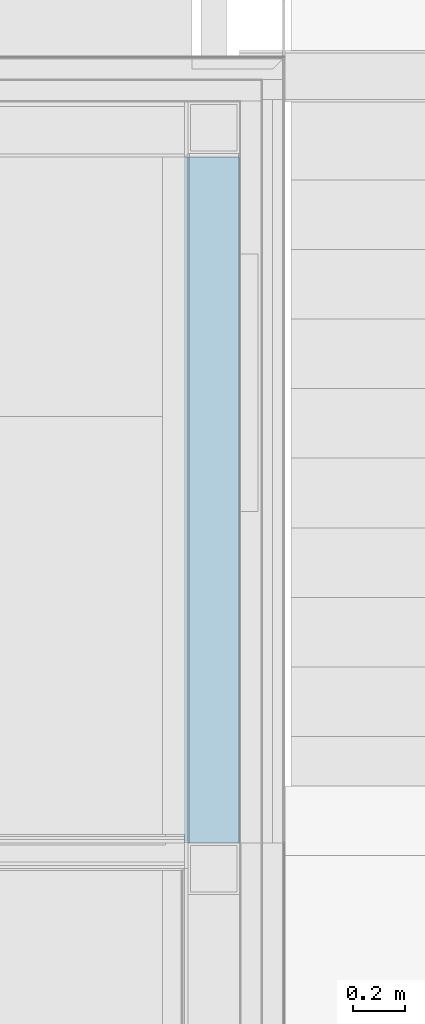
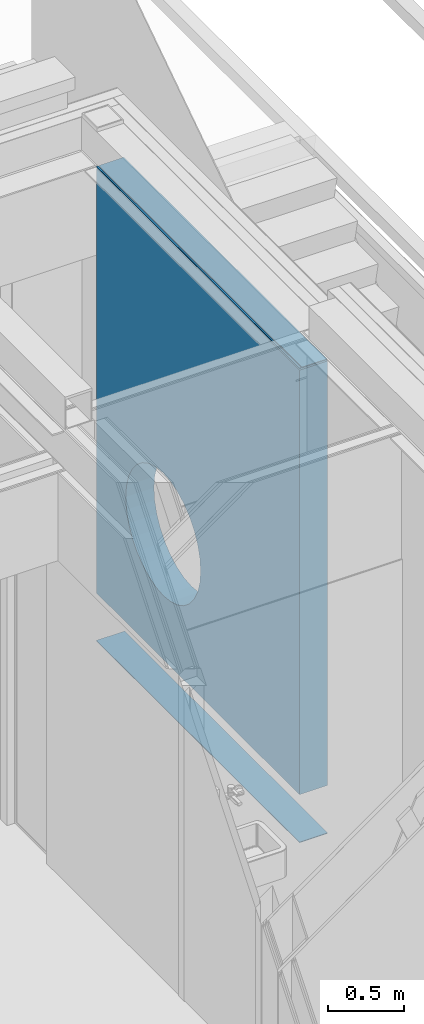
# One storey, part 94 of 165: 1 building element part, 1 opening, 1 element without a shape of its own.
"""IFC2X3 building model written with IfcOpenShell, lengths in millimetres."""

from ifc_helpers import new_model, entity, si_unit, converted_unit, derived_unit, money_unit, direction, frame, origin_with_axes, place, context, subcontext, project, spatial, faceted_brep, material, type_object, element, aggregate, save


model = new_model("IFC2X3")

# Units and contexts
model_context = context("Model", 3, precision=0.01, world=origin_with_axes(), true_north=direction((0.0, 1.0)))
body_context = subcontext(model_context, "Body", "Model", "MODEL_VIEW")
ifc_project = project(units=[si_unit("LENGTHUNIT", "METRE", prefix="MILLI"), si_unit("AREAUNIT", "SQUARE_METRE"), si_unit("VOLUMEUNIT", "CUBIC_METRE"), converted_unit("PLANEANGLEUNIT", "DEGREE", entity("IfcPlaneAngleMeasure", 0.0174532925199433), si_unit("PLANEANGLEUNIT", "RADIAN"), dimensions=[0, 0, 0, 0, 0, 0, 0]), money_unit("EUR"), converted_unit("TIMEUNIT", "Year", entity("IfcTimeMeasure", 31556926.0), si_unit("TIMEUNIT", "SECOND"), dimensions=[0, 0, 1, 0, 0, 0, 0]), si_unit("MASSUNIT", "GRAM", prefix="KILO"), si_unit("THERMODYNAMICTEMPERATUREUNIT", "DEGREE_CELSIUS"), si_unit("LUMINOUSINTENSITYUNIT", "LUMEN"), si_unit("ENERGYUNIT", "JOULE", prefix="MEGA"), derived_unit("THERMALCONDUCTANCEUNIT", [(si_unit("POWERUNIT", "WATT"), 1), (si_unit("LENGTHUNIT", "METRE"), -1), (si_unit("THERMODYNAMICTEMPERATUREUNIT", "KELVIN"), -1)]), derived_unit("SPECIFICHEATCAPACITYUNIT", [(si_unit("ENERGYUNIT", "JOULE"), 1), (si_unit("MASSUNIT", "GRAM", prefix="KILO"), -1), (si_unit("THERMODYNAMICTEMPERATUREUNIT", "KELVIN"), -1)]), derived_unit("MASSDENSITYUNIT", [(si_unit("MASSUNIT", "GRAM", prefix="KILO"), 1), (si_unit("VOLUMEUNIT", "CUBIC_METRE"), -1)])], contexts=[model_context])

# Site, building, storey
site_placement = place(None, origin_with_axes())
site = spatial("IfcSite", under=ifc_project, at=site_placement, Name="Site", CompositionType="ELEMENT")
building_placement = place(site_placement, origin_with_axes())
building = spatial("IfcBuilding", under=site, at=building_placement, Name="Naam gebouw", CompositionType="ELEMENT")
storey_placement = place(building_placement, origin_with_axes())
storey = spatial("IfcBuildingStorey", under=building, at=storey_placement, Name="Begane grond", CompositionType="ELEMENT", Elevation=0.0)

# Wall, opening, building element part
wall_type = type_object("IfcWallType", Name="21 STO Buitengevelisolatie 160 390", PredefinedType="NOTDEFINED")
wall_placement = place(storey_placement, frame((28500.00006871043, 22424.97621300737, -485.0), z_axis=(0.0, 0.0, 1.0), x_axis=(-2.941104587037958e-08, -0.9999999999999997, 0.0)))
wall = element("IfcWall", 1, at=wall_placement, inside=storey, type_object=wall_type, Name="21_Wand-x")
opening_placement = place(wall_placement, frame((1090.000005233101, 0.0, 885.0), z_axis=(0.0, 0.0, 1.0), x_axis=(1.0, 0.0, 0.0)))
element("IfcOpeningElement", 2, at=opening_placement, cuts=wall, Name="_Merk AN", context=body_context, shape_type="Brep", body=[
    faceted_brep([(-480.5847936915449, 1.792353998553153e-05, 595.5942577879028), (-490.0000062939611, 1.764663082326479e-05, 500.0), (-489.9999999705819, -215.0000669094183, 500.0), (-480.5847873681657, -215.0000666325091, 595.5942577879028), (-490.3926464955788, 1.763508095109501e-05, 597.545161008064), (-500.0000062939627, 1.735251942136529e-05, 500.0), (-490.3926464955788, 1.763508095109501e-05, 402.4548389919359), (-461.9397725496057, 1.847191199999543e-05, 308.6582838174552), (-415.7348124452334, 1.983084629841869e-05, 222.2148834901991), (-353.5533968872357, 2.165966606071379e-05, 146.4466094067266), (-277.7851228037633, 2.388809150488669e-05, 84.26519384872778), (-191.3417224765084, 2.64304844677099e-05, 38.06023374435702), (-97.54516730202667, 2.918913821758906e-05, 9.607359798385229), (-6.293962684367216e-06, 3.205804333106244e-05, 0.0), (97.5451547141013, 3.492694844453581e-05, 9.607359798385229), (191.341709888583, 3.768560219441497e-05, 38.06023374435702), (277.785110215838, 4.022799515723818e-05, 84.26519384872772), (353.5533842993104, 4.24564170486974e-05, 146.4466094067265), (415.734799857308, 4.42852368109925e-05, 222.2148834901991), (461.9397599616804, 4.564417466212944e-05, 308.6582838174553), (490.3926339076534, 4.648100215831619e-05, 402.4548389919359), (499.9999937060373, 4.676356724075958e-05, 500.0), (490.3926339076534, 4.648100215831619e-05, 597.545161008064), (461.9397599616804, 4.564417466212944e-05, 691.3417161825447), (415.7347998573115, 4.42852368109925e-05, 777.785116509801), (353.5533842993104, 4.24564170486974e-05, 853.5533905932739), (277.785110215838, 4.022799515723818e-05, 915.7348061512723), (191.341709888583, 3.768560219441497e-05, 961.9397662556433), (97.5451547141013, 3.492694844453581e-05, 990.3926402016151), (-6.293962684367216e-06, 3.205804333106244e-05, 999.9999999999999), (-97.54516730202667, 2.918913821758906e-05, 990.3926402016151), (-191.3417224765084, 2.64304844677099e-05, 961.9397662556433), (-277.7851228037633, 2.388809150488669e-05, 915.7348061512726), (-353.5533968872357, 2.165966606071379e-05, 853.5533905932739), (-415.7348124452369, 1.983084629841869e-05, 777.785116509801), (-461.9397725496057, 1.847191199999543e-05, 691.3417161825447), (-480.5847936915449, 1.792353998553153e-05, 404.4057422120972), (-452.7009772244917, 1.874363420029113e-05, 687.514881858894), (-407.4201163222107, 2.007539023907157e-05, 772.229414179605), (-346.4823290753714, 2.186763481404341e-05, 846.4823227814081), (-272.2294204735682, 2.405149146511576e-05, 907.420110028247), (-187.5148881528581, 2.65430344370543e-05, 952.7009709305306), (-95.59426408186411, 2.924651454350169e-05, 980.5847873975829), (-6.293962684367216e-06, 3.205804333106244e-05, 989.9999999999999), (95.59425149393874, 3.48695685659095e-05, 980.5847873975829), (187.5148755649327, 3.757305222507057e-05, 952.7009709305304), (272.2294078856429, 4.006459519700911e-05, 907.420110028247), (346.482316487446, 4.224845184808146e-05, 846.4823227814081), (407.4201037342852, 4.404069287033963e-05, 772.229414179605), (452.7009646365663, 4.537245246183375e-05, 687.514881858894), (480.5847811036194, 4.619254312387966e-05, 595.5942577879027), (489.9999937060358, 4.646945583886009e-05, 500.0), (480.5847811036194, 4.619254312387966e-05, 404.4057422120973), (452.7009646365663, 4.537245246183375e-05, 312.4851181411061), (407.4201037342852, 4.404069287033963e-05, 227.7705858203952), (346.482316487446, 4.224845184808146e-05, 153.517677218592), (272.2294078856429, 4.006459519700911e-05, 92.57988997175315), (187.5148755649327, 3.757305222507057e-05, 47.29902906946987), (95.59425149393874, 3.48695685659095e-05, 19.41521260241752), (-6.293962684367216e-06, 3.205804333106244e-05, 10.00000000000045), (-95.59426408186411, 2.924651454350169e-05, 19.41521260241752), (-187.5148881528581, 2.65430344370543e-05, 47.29902906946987), (-272.2294204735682, 2.405149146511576e-05, 92.5798899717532), (-346.4823290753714, 2.186763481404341e-05, 153.517677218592), (-407.4201163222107, 2.007539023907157e-05, 227.7705858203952), (-452.7009772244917, 1.874363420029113e-05, 312.4851181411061), (-480.5847873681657, -215.0000666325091, 404.4057422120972), (-452.7009709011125, -215.0000658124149, 312.4851181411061), (-407.4201099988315, -215.0000644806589, 227.7705858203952), (-346.4823227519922, -215.0000626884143, 153.517677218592), (-272.2294141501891, -215.0000605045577, 92.5798899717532), (-187.514881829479, -215.0000580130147, 47.29902906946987), (-95.59425775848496, -215.0000553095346, 19.41521260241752), (2.941646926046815e-08, -215.0000524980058, 10.00000000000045), (95.5942578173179, -215.0000496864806, 19.41521260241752), (187.5148818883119, -215.0000469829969, 47.29902906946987), (272.229414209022, -215.0000444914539, 92.57988997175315), (346.4823228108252, -215.0000423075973, 153.517677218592), (407.4201100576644, -215.0000405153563, 227.7705858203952), (452.7009709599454, -215.0000391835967, 312.4851181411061), (480.5847874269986, -215.000038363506, 404.4057422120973), (490.0000000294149, -215.0000380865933, 500.0), (480.5847874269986, -215.000038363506, 595.5942577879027), (452.7009709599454, -215.0000391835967, 687.514881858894), (407.4201100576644, -215.0000405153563, 772.229414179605), (346.4823228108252, -215.0000423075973, 846.4823227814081), (272.229414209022, -215.0000444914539, 907.420110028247), (187.5148818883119, -215.0000469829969, 952.7009709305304), (95.5942578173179, -215.0000496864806, 980.5847873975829), (2.941646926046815e-08, -215.0000524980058, 989.9999999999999), (-95.59425775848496, -215.0000553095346, 980.5847873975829), (-187.514881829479, -215.0000580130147, 952.7009709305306), (-272.2294141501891, -215.0000605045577, 907.420110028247), (-346.4823227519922, -215.0000626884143, 846.4823227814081), (-407.4201099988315, -215.0000644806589, 772.229414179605), (-452.7009709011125, -215.0000658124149, 687.514881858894), (-490.3926486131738, 72.00001763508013, 597.545161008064), (-500.0000084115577, 72.0000173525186, 500.0), (-490.3926486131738, 72.00001763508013, 402.4548389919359), (-461.9397746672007, 72.00001847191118, 308.6582838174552), (-415.7348145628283, 72.00001983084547, 222.2148834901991), (-353.5533990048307, 72.00002165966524, 146.4466094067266), (-277.7851249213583, 72.00002388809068, 84.26519384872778), (-191.3417245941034, 72.00002643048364, 38.06023374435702), (-97.54516941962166, 72.0000291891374, 9.607359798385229), (-8.411557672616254e-06, 72.0000320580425, 0.0), (97.54515259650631, 72.00003492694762, 9.607359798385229), (191.341707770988, 72.00003768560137, 38.06023374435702), (277.785108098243, 72.00004022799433, 84.26519384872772), (353.5533821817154, 72.00004245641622, 146.4466094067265), (415.734797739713, 72.00004428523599, 222.2148834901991), (461.9397578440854, 72.00004564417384, 308.6582838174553), (490.3926317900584, 72.00004648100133, 402.4548389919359), (499.9999915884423, 72.00004676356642, 500.0), (490.3926317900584, 72.00004648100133, 597.545161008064), (461.9397578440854, 72.00004564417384, 691.3417161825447), (415.7347977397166, 72.00004428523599, 777.785116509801), (353.5533821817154, 72.00004245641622, 853.5533905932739), (277.785108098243, 72.00004022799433, 915.7348061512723), (191.341707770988, 72.00003768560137, 961.9397662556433), (97.54515259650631, 72.00003492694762, 990.3926402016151), (-8.411557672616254e-06, 72.0000320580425, 999.9999999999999), (-97.54516941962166, 72.0000291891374, 990.3926402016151), (-191.3417245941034, 72.00002643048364, 961.9397662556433), (-277.7851249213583, 72.00002388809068, 915.7348061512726), (-353.5533990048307, 72.00002165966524, 853.5533905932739), (-415.7348145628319, 72.00001983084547, 777.785116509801), (-461.9397746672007, 72.00001847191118, 691.3417161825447), (-500.2005014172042, 72.00001734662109, 599.4960642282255), (-510.0000084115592, 72.0000170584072, 500.0), (-500.2005014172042, 72.00001734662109, 400.5039357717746), (-471.1785699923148, 72.00001820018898, 304.8314494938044), (-424.0495106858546, 72.00001958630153, 216.659181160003), (-360.6244668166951, 72.00002145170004, 139.3755415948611), (-283.3408272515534, 72.00002372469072, 75.95049772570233), (-195.1685589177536, 72.00002631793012, 28.82143841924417), (-99.49607263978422, 72.00002913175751, -0.2004930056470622), (-8.411557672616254e-06, 72.0000320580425, -9.999999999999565), (99.49605581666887, 72.00003498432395, -0.2004930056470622), (195.1685420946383, 72.00003779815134, 28.82143841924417), (283.3408104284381, 72.00004039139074, 75.95049772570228), (360.6244499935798, 72.00004266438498, 139.3755415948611), (424.0494938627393, 72.00004452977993, 216.659181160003), (471.1785531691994, 72.00004591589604, 304.8314494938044), (500.2004845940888, 72.00004676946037, 400.5039357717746), (509.9999915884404, 72.00004705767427, 500.0), (500.2004845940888, 72.00004676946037, 599.4960642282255), (471.1785531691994, 72.00004591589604, 695.1685505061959), (424.0494938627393, 72.00004452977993, 783.3408188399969), (360.6244499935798, 72.00004266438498, 860.6244584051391), (283.3408104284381, 72.00004039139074, 924.049502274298), (195.1685420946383, 72.00003779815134, 971.1785615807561), (99.49605581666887, 72.00003498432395, 1000.200493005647), (-8.411557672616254e-06, 72.0000320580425, 1010.0), (-99.49607263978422, 72.00002913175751, 1000.200493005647), (-195.1685589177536, 72.00002631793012, 971.1785615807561), (-283.3408272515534, 72.00002372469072, 924.0495022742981), (-360.6244668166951, 72.00002145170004, 860.6244584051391), (-424.0495106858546, 72.00001958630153, 783.3408188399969), (-471.1785699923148, 72.00001820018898, 695.1685505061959), (-500.200504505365, 177.0000173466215, 599.4960642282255), (-510.0000114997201, 177.0000170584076, 500.0), (-500.200504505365, 177.0000173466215, 400.5039357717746), (-471.1785730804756, 177.0000182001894, 304.8314494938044), (-424.0495137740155, 177.000019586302, 216.659181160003), (-360.624469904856, 177.0000214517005, 139.3755415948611), (-283.3408303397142, 177.0000237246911, 75.95049772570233), (-195.1685620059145, 177.0000263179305, 28.82143841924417), (-99.49607572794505, 177.0000291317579, -0.2004930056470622), (-1.14997185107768e-05, 177.0000320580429, -9.999999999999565), (99.49605272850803, 177.0000349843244, -0.2004930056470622), (195.1685390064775, 177.0000377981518, 28.82143841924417), (283.3408073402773, 177.0000403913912, 75.95049772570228), (360.6244469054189, 177.0000426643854, 139.3755415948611), (424.0494907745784, 177.0000445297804, 216.659181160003), (471.1785500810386, 177.0000459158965, 304.8314494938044), (500.200481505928, 177.0000467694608, 400.5039357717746), (509.9999885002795, 177.0000470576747, 500.0), (500.200481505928, 177.0000467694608, 599.4960642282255), (471.1785500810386, 177.0000459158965, 695.1685505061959), (424.0494907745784, 177.0000445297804, 783.3408188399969), (360.6244469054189, 177.0000426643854, 860.6244584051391), (283.3408073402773, 177.0000403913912, 924.049502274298), (195.1685390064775, 177.0000377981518, 971.1785615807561), (99.49605272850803, 177.0000349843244, 1000.200493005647), (-1.14997185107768e-05, 177.0000320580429, 1010.0), (-99.49607572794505, 177.0000291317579, 1000.200493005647), (-195.1685620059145, 177.0000263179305, 971.1785615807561), (-283.3408303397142, 177.0000237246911, 924.0495022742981), (-360.624469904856, 177.0000214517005, 860.6244584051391), (-424.0495137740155, 177.000019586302, 783.3408188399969), (-471.1785730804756, 177.0000182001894, 695.1685505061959)], [[[0, 1, 2, 3]], [[4, 5, 6, 7, 8, 9, 10, 11, 12, 13, 14, 15, 16, 17, 18, 19, 20, 21, 22, 23, 24, 25, 26, 27, 28, 29, 30, 31, 32, 33, 34, 35], [36, 1, 0, 37, 38, 39, 40, 41, 42, 43, 44, 45, 46, 47, 48, 49, 50, 51, 52, 53, 54, 55, 56, 57, 58, 59, 60, 61, 62, 63, 64, 65]], [[1, 36, 66, 2]], [[3, 2, 66, 67, 68, 69, 70, 71, 72, 73, 74, 75, 76, 77, 78, 79, 80, 81, 82, 83, 84, 85, 86, 87, 88, 89, 90, 91, 92, 93, 94, 95]], [[37, 0, 3, 95]], [[96, 97, 5, 4]], [[97, 98, 6, 5]], [[98, 99, 7, 6]], [[99, 100, 8, 7]], [[100, 101, 9, 8]], [[101, 102, 10, 9]], [[102, 103, 11, 10]], [[103, 104, 12, 11]], [[104, 105, 13, 12]], [[105, 106, 14, 13]], [[106, 107, 15, 14]], [[107, 108, 16, 15]], [[108, 109, 17, 16]], [[109, 110, 18, 17]], [[110, 111, 19, 18]], [[111, 112, 20, 19]], [[112, 113, 21, 20]], [[113, 114, 22, 21]], [[114, 115, 23, 22]], [[115, 116, 24, 23]], [[116, 117, 25, 24]], [[117, 118, 26, 25]], [[118, 119, 27, 26]], [[119, 120, 28, 27]], [[120, 121, 29, 28]], [[121, 122, 30, 29]], [[122, 123, 31, 30]], [[123, 124, 32, 31]], [[124, 125, 33, 32]], [[125, 126, 34, 33]], [[126, 127, 35, 34]], [[127, 96, 4, 35]], [[38, 37, 95, 94]], [[39, 38, 94, 93]], [[40, 39, 93, 92]], [[41, 40, 92, 91]], [[42, 41, 91, 90]], [[43, 42, 90, 89]], [[44, 43, 89, 88]], [[45, 44, 88, 87]], [[46, 45, 87, 86]], [[47, 46, 86, 85]], [[48, 47, 85, 84]], [[49, 48, 84, 83]], [[50, 49, 83, 82]], [[51, 50, 82, 81]], [[52, 51, 81, 80]], [[53, 52, 80, 79]], [[54, 53, 79, 78]], [[55, 54, 78, 77]], [[56, 55, 77, 76]], [[57, 56, 76, 75]], [[58, 57, 75, 74]], [[59, 58, 74, 73]], [[60, 59, 73, 72]], [[61, 60, 72, 71]], [[62, 61, 71, 70]], [[63, 62, 70, 69]], [[64, 63, 69, 68]], [[65, 64, 68, 67]], [[36, 65, 67, 66]], [[128, 129, 130, 131, 132, 133, 134, 135, 136, 137, 138, 139, 140, 141, 142, 143, 144, 145, 146, 147, 148, 149, 150, 151, 152, 153, 154, 155, 156, 157, 158, 159], [98, 97, 96, 127, 126, 125, 124, 123, 122, 121, 120, 119, 118, 117, 116, 115, 114, 113, 112, 111, 110, 109, 108, 107, 106, 105, 104, 103, 102, 101, 100, 99]], [[129, 128, 160, 161]], [[130, 129, 161, 162]], [[131, 130, 162, 163]], [[132, 131, 163, 164]], [[133, 132, 164, 165]], [[134, 133, 165, 166]], [[135, 134, 166, 167]], [[136, 135, 167, 168]], [[137, 136, 168, 169]], [[138, 137, 169, 170]], [[139, 138, 170, 171]], [[140, 139, 171, 172]], [[141, 140, 172, 173]], [[142, 141, 173, 174]], [[143, 142, 174, 175]], [[144, 143, 175, 176]], [[145, 144, 176, 177]], [[146, 145, 177, 178]], [[147, 146, 178, 179]], [[148, 147, 179, 180]], [[149, 148, 180, 181]], [[150, 149, 181, 182]], [[151, 150, 182, 183]], [[152, 151, 183, 184]], [[153, 152, 184, 185]], [[154, 153, 185, 186]], [[155, 154, 186, 187]], [[156, 155, 187, 188]], [[157, 156, 188, 189]], [[158, 157, 189, 190]], [[159, 158, 190, 191]], [[128, 159, 191, 160]], [[162, 161, 160, 191, 190, 189, 188, 187, 186, 185, 184, 183, 182, 181, 180, 179, 178, 177, 176, 175, 174, 173, 172, 171, 170, 169, 168, 167, 166, 165, 164, 163]]]),
])
ifc_material = material(Name="Steen - Kalkzandsteen C")
building_element_part_placement = place(wall_placement, origin_with_axes())
building_element_part = element("IfcBuildingElementPart", 3, at=building_element_part_placement, material=ifc_material, Name="Steen - Kalkzandsteen C", context=body_context, shape_type="Brep", body=[
    faceted_brep([(2874.975822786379, -195.0000011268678, 3795.0), (2874.975820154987, -5.000001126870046, 3795.0), (214.0000000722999, -5.000079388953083, 3795.0), (214.0000028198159, -195.0000793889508, 3795.0), (2874.975825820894, -195.0000011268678, 3790.0), (2874.975820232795, -5.000001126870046, 3790.0), (214.0000000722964, -5.000079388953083, 3790.0), (214.0000028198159, -195.0000793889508, 3790.0)], [[[0, 1, 2, 3]], [[1, 0, 4, 5]], [[2, 1, 5, 6]], [[3, 2, 6, 7]], [[3, 7, 4, 0]], [[6, 5, 4, 7]]]),
    faceted_brep([(214.000003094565, -213.999993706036, 3795.0), (2874.975823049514, -213.9999154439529, 3795.0), (2874.975822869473, -201.000001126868, 3795.0), (214.0000029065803, -201.000079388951, 3795.0), (214.000003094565, -213.999993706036, 3790.0), (2874.97582304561, -213.9999154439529, 3790.0), (2874.975825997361, -201.000001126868, 3790.0), (214.0000029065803, -201.000079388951, 3790.0)], [[[0, 1, 2, 3]], [[1, 0, 4, 5]], [[1, 5, 6, 2]], [[2, 6, 7, 3]], [[0, 3, 7, 4]], [[6, 5, 4, 7]]]),
    faceted_brep([(214.000003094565, -213.999993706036, 5.000000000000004), (213.9999999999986, -7.82620830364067e-05, 5.000000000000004), (213.9999999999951, 6.293962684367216e-06, 0.0), (214.000003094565, -213.999993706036, 0.0), (2874.97581380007, 0.0, 5.000000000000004), (2874.975820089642, -213.9999154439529, 5.000000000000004), (2874.975813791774, 8.455604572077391e-05, 0.0), (2874.975820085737, -213.9999154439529, 0.0)], [[[0, 1, 2, 3]], [[4, 1, 0, 5]], [[1, 4, 6, 2]], [[6, 7, 3, 2]], [[5, 0, 3, 7]], [[4, 5, 7, 6]]]),
    faceted_brep([(2874.975814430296, 0.0, 384.9999999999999), (213.9999999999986, -7.82620830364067e-05, 384.9999999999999), (213.9999999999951, 2.978694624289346e-06, 3778.0), (2874.975820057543, 4.001719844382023e-05, 3778.0), (743.5176761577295, 2.186763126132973e-05, 1731.482322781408), (682.5798889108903, 2.007538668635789e-05, 1657.229414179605), (637.2990280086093, 1.874363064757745e-05, 1572.514881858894), (609.4152115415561, 1.792353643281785e-05, 1480.594257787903), (599.9999989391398, 1.764662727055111e-05, 1385.0), (609.4152115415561, 1.792353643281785e-05, 1289.405742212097), (637.2990280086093, 1.874363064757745e-05, 1197.485118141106), (682.5798889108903, 2.007538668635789e-05, 1112.770585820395), (743.5176761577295, 2.186763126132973e-05, 1038.517677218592), (817.7705847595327, 2.405148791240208e-05, 977.5798899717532), (902.4851170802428, 2.654303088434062e-05, 932.2990290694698), (994.4057411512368, 2.924651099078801e-05, 904.4152126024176), (1089.999998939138, 3.205803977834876e-05, 895.0000000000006), (1185.59425672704, 3.486956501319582e-05, 904.4152126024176), (1277.514880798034, 3.757304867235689e-05, 932.2990290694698), (1362.229413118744, 4.006459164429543e-05, 977.5798899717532), (1436.482321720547, 4.224844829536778e-05, 1038.517677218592), (1497.420108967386, 4.404068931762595e-05, 1112.770585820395), (1542.700969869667, 4.537244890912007e-05, 1197.485118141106), (1570.58478633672, 4.619253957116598e-05, 1289.405742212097), (1579.999998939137, 4.646945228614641e-05, 1385.0), (1570.58478633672, 4.619253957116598e-05, 1480.594257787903), (1542.700969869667, 4.537244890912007e-05, 1572.514881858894), (1497.420108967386, 4.404068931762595e-05, 1657.229414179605), (1436.482321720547, 4.224844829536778e-05, 1731.482322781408), (1362.229413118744, 4.006459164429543e-05, 1792.420110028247), (1277.514880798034, 3.757304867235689e-05, 1837.700970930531), (1185.59425672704, 3.486956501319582e-05, 1865.584787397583), (1089.999998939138, 3.205803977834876e-05, 1875.0), (994.4057411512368, 2.924651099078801e-05, 1865.584787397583), (902.4851170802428, 2.654303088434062e-05, 1837.700970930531), (817.7705847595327, 2.405148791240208e-05, 1792.420110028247), (214.000003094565, -213.999993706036, 384.9999999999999), (2874.97582038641, -213.9999154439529, 384.9999999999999), (214.000003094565, -213.999993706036, 3778.0), (2874.975823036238, -213.9999154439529, 3778.0), (743.5176824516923, -213.9999781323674, 1731.482322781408), (682.579895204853, -213.9999799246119, 1657.229414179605), (637.299034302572, -213.999981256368, 1572.514881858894), (609.4152178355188, -213.9999820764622, 1480.594257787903), (600.0000052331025, -213.9999823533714, 1385.0), (609.4152178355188, -213.9999820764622, 1289.405742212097), (637.299034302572, -213.999981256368, 1197.485118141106), (682.579895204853, -213.9999799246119, 1112.770585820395), (743.5176824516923, -213.9999781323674, 1038.517677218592), (817.7705910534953, -213.9999759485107, 977.5798899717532), (902.4851233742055, -213.9999734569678, 932.2990290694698), (994.4057474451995, -213.9999707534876, 904.4152126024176), (1090.000005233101, -213.9999679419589, 895.0000000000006), (1185.594263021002, -213.9999651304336, 904.4152126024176), (1277.514887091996, -213.99996242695, 932.2990290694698), (1362.229419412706, -213.999959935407, 977.5798899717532), (1436.48232801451, -213.9999577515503, 1038.517677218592), (1497.420115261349, -213.9999559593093, 1112.770585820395), (1542.70097616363, -213.9999546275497, 1197.485118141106), (1570.584792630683, -213.9999538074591, 1289.405742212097), (1580.000005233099, -213.9999535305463, 1385.0), (1570.584792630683, -213.9999538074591, 1480.594257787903), (1542.70097616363, -213.9999546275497, 1572.514881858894), (1497.420115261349, -213.9999559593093, 1657.229414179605), (1436.48232801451, -213.9999577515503, 1731.482322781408), (1362.229419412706, -213.999959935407, 1792.420110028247), (1277.514887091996, -213.99996242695, 1837.700970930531), (1185.594263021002, -213.9999651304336, 1865.584787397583), (1090.000005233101, -213.9999679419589, 1875.0), (994.4057474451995, -213.9999707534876, 1865.584787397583), (902.4851233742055, -213.9999734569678, 1837.700970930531), (817.7705910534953, -213.9999759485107, 1792.420110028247)], [[[0, 1, 2, 3], [4, 5, 6, 7, 8, 9, 10, 11, 12, 13, 14, 15, 16, 17, 18, 19, 20, 21, 22, 23, 24, 25, 26, 27, 28, 29, 30, 31, 32, 33, 34, 35]], [[36, 1, 0, 37]], [[1, 36, 38, 2]], [[38, 39, 3, 2]], [[37, 0, 3, 39]], [[40, 41, 5, 4]], [[41, 42, 6, 5]], [[42, 43, 7, 6]], [[43, 44, 8, 7]], [[44, 45, 9, 8]], [[45, 46, 10, 9]], [[46, 47, 11, 10]], [[47, 48, 12, 11]], [[48, 49, 13, 12]], [[49, 50, 14, 13]], [[50, 51, 15, 14]], [[51, 52, 16, 15]], [[52, 53, 17, 16]], [[53, 54, 18, 17]], [[54, 55, 19, 18]], [[55, 56, 20, 19]], [[56, 57, 21, 20]], [[57, 58, 22, 21]], [[58, 59, 23, 22]], [[59, 60, 24, 23]], [[60, 61, 25, 24]], [[61, 62, 26, 25]], [[62, 63, 27, 26]], [[63, 64, 28, 27]], [[64, 65, 29, 28]], [[65, 66, 30, 29]], [[66, 67, 31, 30]], [[67, 68, 32, 31]], [[68, 69, 33, 32]], [[69, 70, 34, 33]], [[70, 71, 35, 34]], [[71, 40, 4, 35]], [[36, 37, 39, 38], [48, 47, 46, 45, 44, 43, 42, 41, 40, 71, 70, 69, 68, 67, 66, 65, 64, 63, 62, 61, 60, 59, 58, 57, 56, 55, 54, 53, 52, 51, 50, 49]]]),
])
aggregate(wall, [building_element_part])

save(model, "model.ifc")
